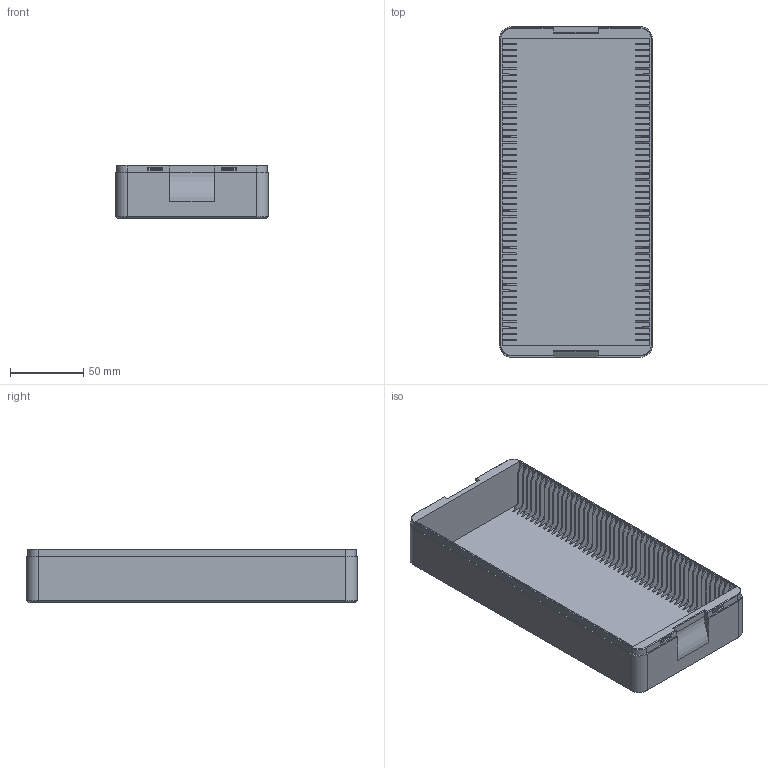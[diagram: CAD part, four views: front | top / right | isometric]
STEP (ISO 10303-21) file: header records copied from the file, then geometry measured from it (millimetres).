
FILE_DESCRIPTION(/* description */ (''),/* implementation_level */ '2;1');
FILE_NAME(/* name */ 'STE38F8',/* time_stamp */ '2023-08-28T21:12:03+02:00',/* author */ (''),/* organization */ (''),/* preprocessor_version */ 'ST-DEVELOPER v16.5',/* originating_system */ '',/* authorisation */ '');
FILE_SCHEMA (('AUTOMOTIVE_DESIGN'));
Length unit declared in the file: millimetre
Products named in the file (1): Document
Bounding box: 104 x 225 x 36.6 mm (x, y, z)
Volume: 125568.1 mm3; surface area: 125930.8 mm2
Topology: 1 solids, 1 shells, 959 faces, 2640 edges, 1684 vertices
Faces by surface type: plane 745, cylinder 204, bspline 10
Entity records: 25079 total; most frequent: CARTESIAN_POINT 9675, ORIENTED_EDGE 5272, EDGE_CURVE 2636, VERTEX_POINT 1684, EDGE_LOOP 964, ADVANCED_FACE 959, FACE_OUTER_BOUND 959, DIRECTION 855
